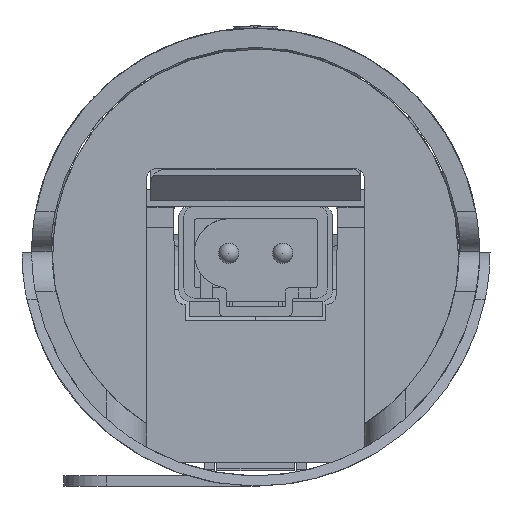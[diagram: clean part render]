
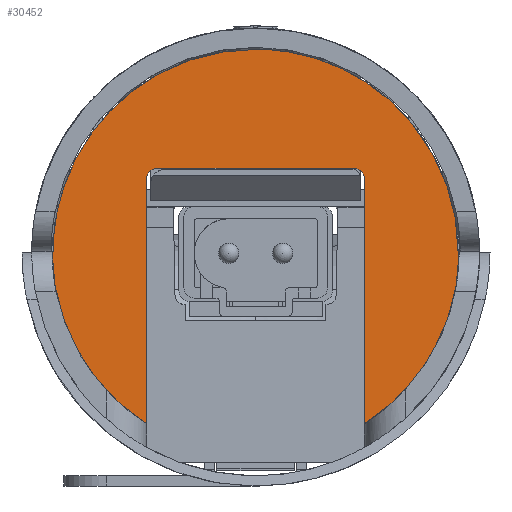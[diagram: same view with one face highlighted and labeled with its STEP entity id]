
A CAD part, left-side view. The second image highlights one B-rep face of the part: STEP entity #30452.
In plain terms, the highlighted planar face has unit normal (-1, 0, 0.009).
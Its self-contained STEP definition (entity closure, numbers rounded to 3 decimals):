
#125=B_SPLINE_CURVE_WITH_KNOTS('',3,(#46076,#46077,#46078,#46079,#46080),
 .UNSPECIFIED.,.F.,.F.,(4,1,4),(0.,0.5,1.),.UNSPECIFIED.);
#126=B_SPLINE_CURVE_WITH_KNOTS('',3,(#46088,#46089,#46090,#46091,#46092,
#46093,#46094,#46095,#46096,#46097,#46098,#46099,#46100,#46101,#46102,#46103,
#46104,#46105,#46106,#46107,#46108,#46109),.UNSPECIFIED.,.F.,.F.,(4,1,1,
1,1,1,1,1,1,1,1,1,1,1,1,1,1,1,1,4),(0.,0.125,0.188,0.219,0.25,0.281,
0.313,0.375,0.438,0.5,0.563,0.594,0.625,0.688,0.719,0.75,0.781,
0.813,0.875,1.),.UNSPECIFIED.);
#127=B_SPLINE_CURVE_WITH_KNOTS('',3,(#46111,#46112,#46113,#46114,#46115,
#46116,#46117,#46118,#46119,#46120,#46121,#46122,#46123,#46124,#46125,#46126,
#46127,#46128,#46129,#46130,#46131,#46132),.UNSPECIFIED.,.F.,.F.,(4,1,1,
1,1,1,1,1,1,1,1,1,1,1,1,1,1,1,1,4),(0.,0.125,0.188,0.219,0.25,0.281,
0.313,0.375,0.438,0.5,0.563,0.594,0.625,0.688,0.719,0.75,0.781,
0.813,0.875,1.),.UNSPECIFIED.);
#128=B_SPLINE_CURVE_WITH_KNOTS('',3,(#46140,#46141,#46142,#46143,#46144),
 .UNSPECIFIED.,.F.,.F.,(4,1,4),(0.,0.5,1.),.UNSPECIFIED.);
#1279=ELLIPSE('',#35208,20.001,20.);
#1280=ELLIPSE('',#35209,20.001,20.);
#3009=ORIENTED_EDGE('',*,*,#11331,.T.);
#3010=ORIENTED_EDGE('',*,*,#11332,.T.);
#3011=ORIENTED_EDGE('',*,*,#11333,.T.);
#3012=ORIENTED_EDGE('',*,*,#11334,.T.);
#3013=ORIENTED_EDGE('',*,*,#11335,.T.);
#3014=ORIENTED_EDGE('',*,*,#11336,.T.);
#3015=ORIENTED_EDGE('',*,*,#11337,.T.);
#3016=ORIENTED_EDGE('',*,*,#11338,.T.);
#3017=ORIENTED_EDGE('',*,*,#11339,.T.);
#3018=ORIENTED_EDGE('',*,*,#11340,.T.);
#3019=ORIENTED_EDGE('',*,*,#11341,.T.);
#11331=EDGE_CURVE('',#15832,#15833,#19119,.T.);
#11332=EDGE_CURVE('',#15833,#15834,#125,.T.);
#11333=EDGE_CURVE('',#15834,#15835,#19120,.T.);
#11334=EDGE_CURVE('',#15835,#15836,#1279,.T.);
#11335=EDGE_CURVE('',#15836,#15837,#19121,.T.);
#11336=EDGE_CURVE('',#15837,#15838,#126,.T.);
#11337=EDGE_CURVE('',#15838,#15839,#127,.T.);
#11338=EDGE_CURVE('',#15839,#15840,#19122,.T.);
#11339=EDGE_CURVE('',#15840,#15841,#1280,.T.);
#11340=EDGE_CURVE('',#15841,#15842,#19123,.T.);
#11341=EDGE_CURVE('',#15842,#15832,#128,.T.);
#15832=VERTEX_POINT('',#46074);
#15833=VERTEX_POINT('',#46075);
#15834=VERTEX_POINT('',#46081);
#15835=VERTEX_POINT('',#46083);
#15836=VERTEX_POINT('',#46085);
#15837=VERTEX_POINT('',#46087);
#15838=VERTEX_POINT('',#46110);
#15839=VERTEX_POINT('',#46133);
#15840=VERTEX_POINT('',#46135);
#15841=VERTEX_POINT('',#46137);
#15842=VERTEX_POINT('',#46139);
#19119=LINE('',#46073,#22675);
#19120=LINE('',#46082,#22676);
#19121=LINE('',#46086,#22677);
#19122=LINE('',#46134,#22678);
#19123=LINE('',#46138,#22679);
#22675=VECTOR('',#38148,1000.);
#22676=VECTOR('',#38149,1000.);
#22677=VECTOR('',#38152,1000.);
#22678=VECTOR('',#38153,1000.);
#22679=VECTOR('',#38156,1000.);
#25946=EDGE_LOOP('',(#3009,#3010,#3011,#3012,#3013,#3014,#3015,#3016,#3017,
#3018,#3019));
#27595=FACE_BOUND('',#25946,.T.);
#29112=PLANE('',#35207);
#30452=ADVANCED_FACE('',(#27595),#29112,.T.);
#35207=AXIS2_PLACEMENT_3D('',#46072,#38146,#38147);
#35208=AXIS2_PLACEMENT_3D('',#46084,#38150,#38151);
#35209=AXIS2_PLACEMENT_3D('',#46136,#38154,#38155);
#38146=DIRECTION('',(-1.,0.,0.009));
#38147=DIRECTION('',(-0.009,0.,-1.));
#38148=DIRECTION('',(0.,-1.,0.));
#38149=DIRECTION('',(-0.009,0.,-1.));
#38150=DIRECTION('',(-1.,0.,0.009));
#38151=DIRECTION('',(-0.009,0.,-1.));
#38152=DIRECTION('',(0.,1.,0.));
#38153=DIRECTION('',(0.,1.,0.));
#38154=DIRECTION('',(-1.,0.,0.009));
#38155=DIRECTION('',(-0.009,0.,-1.));
#38156=DIRECTION('',(0.009,0.,1.));
#46072=CARTESIAN_POINT('',(489.872,10.484,-26.638));
#46073=CARTESIAN_POINT('',(490.123,17.346,2.151));
#46074=CARTESIAN_POINT('',(490.123,22.196,2.151));
#46075=CARTESIAN_POINT('',(490.123,2.796,2.151));
#46076=CARTESIAN_POINT('',(490.123,2.796,2.151));
#46077=CARTESIAN_POINT('',(490.123,2.534,2.151));
#46078=CARTESIAN_POINT('',(490.121,2.013,1.934));
#46079=CARTESIAN_POINT('',(490.116,1.796,1.415));
#46080=CARTESIAN_POINT('',(490.114,1.796,1.151));
#46081=CARTESIAN_POINT('',(490.114,1.796,1.151));
#46082=CARTESIAN_POINT('',(490.009,1.796,-10.897));
#46083=CARTESIAN_POINT('',(489.904,1.796,-22.946));
#46084=CARTESIAN_POINT('',(490.051,12.496,-6.049));
#46085=CARTESIAN_POINT('',(490.051,-7.504,-6.049));
#46086=CARTESIAN_POINT('',(490.051,-7.454,-6.049));
#46087=CARTESIAN_POINT('',(490.051,-7.404,-6.049));
#46088=CARTESIAN_POINT('',(490.051,-7.404,-6.049));
#46089=CARTESIAN_POINT('',(490.062,-7.404,-4.772));
#46090=CARTESIAN_POINT('',(490.079,-7.229,-2.896));
#46091=CARTESIAN_POINT('',(490.097,-6.721,-0.789));
#46092=CARTESIAN_POINT('',(490.108,-6.34,0.404));
#46093=CARTESIAN_POINT('',(490.115,-6.022,1.26));
#46094=CARTESIAN_POINT('',(490.123,-5.614,2.215));
#46095=CARTESIAN_POINT('',(490.134,-5.026,3.413));
#46096=CARTESIAN_POINT('',(490.146,-4.193,4.841));
#46097=CARTESIAN_POINT('',(490.161,-2.953,6.545));
#46098=CARTESIAN_POINT('',(490.174,-1.602,8.046));
#46099=CARTESIAN_POINT('',(490.184,-0.343,9.18));
#46100=CARTESIAN_POINT('',(490.191,0.74,10.014));
#46101=CARTESIAN_POINT('',(490.198,1.894,10.811));
#46102=CARTESIAN_POINT('',(490.204,3.027,11.472));
#46103=CARTESIAN_POINT('',(490.209,4.229,12.06));
#46104=CARTESIAN_POINT('',(490.213,5.188,12.469));
#46105=CARTESIAN_POINT('',(490.216,6.044,12.787));
#46106=CARTESIAN_POINT('',(490.219,7.238,13.168));
#46107=CARTESIAN_POINT('',(490.223,9.346,13.676));
#46108=CARTESIAN_POINT('',(490.225,11.22,13.851));
#46109=CARTESIAN_POINT('',(490.225,12.496,13.851));
#46110=CARTESIAN_POINT('',(490.225,12.496,13.851));
#46111=CARTESIAN_POINT('',(490.225,12.496,13.851));
#46112=CARTESIAN_POINT('',(490.225,13.767,13.851));
#46113=CARTESIAN_POINT('',(490.223,15.632,13.676));
#46114=CARTESIAN_POINT('',(490.219,17.756,13.166));
#46115=CARTESIAN_POINT('',(490.216,18.95,12.785));
#46116=CARTESIAN_POINT('',(490.213,19.803,12.469));
#46117=CARTESIAN_POINT('',(490.209,20.762,12.06));
#46118=CARTESIAN_POINT('',(490.204,21.962,11.473));
#46119=CARTESIAN_POINT('',(490.197,23.39,10.64));
#46120=CARTESIAN_POINT('',(490.186,25.09,9.403));
#46121=CARTESIAN_POINT('',(490.174,26.591,8.049));
#46122=CARTESIAN_POINT('',(490.163,27.723,6.79));
#46123=CARTESIAN_POINT('',(490.154,28.557,5.705));
#46124=CARTESIAN_POINT('',(490.144,29.356,4.548));
#46125=CARTESIAN_POINT('',(490.134,30.017,3.416));
#46126=CARTESIAN_POINT('',(490.123,30.605,2.216));
#46127=CARTESIAN_POINT('',(490.115,31.014,1.259));
#46128=CARTESIAN_POINT('',(490.108,31.331,0.405));
#46129=CARTESIAN_POINT('',(490.097,31.713,-0.788));
#46130=CARTESIAN_POINT('',(490.079,32.22,-2.895));
#46131=CARTESIAN_POINT('',(490.062,32.396,-4.771));
#46132=CARTESIAN_POINT('',(490.051,32.396,-6.049));
#46133=CARTESIAN_POINT('',(490.051,32.396,-6.049));
#46134=CARTESIAN_POINT('',(490.051,32.446,-6.049));
#46135=CARTESIAN_POINT('',(490.051,32.496,-6.049));
#46136=CARTESIAN_POINT('',(490.051,12.496,-6.049));
#46137=CARTESIAN_POINT('',(489.904,23.196,-22.946));
#46138=CARTESIAN_POINT('',(490.009,23.196,-10.897));
#46139=CARTESIAN_POINT('',(490.114,23.196,1.151));
#46140=CARTESIAN_POINT('',(490.114,23.196,1.151));
#46141=CARTESIAN_POINT('',(490.116,23.196,1.413));
#46142=CARTESIAN_POINT('',(490.121,22.978,1.934));
#46143=CARTESIAN_POINT('',(490.123,22.459,2.151));
#46144=CARTESIAN_POINT('',(490.123,22.196,2.151));
